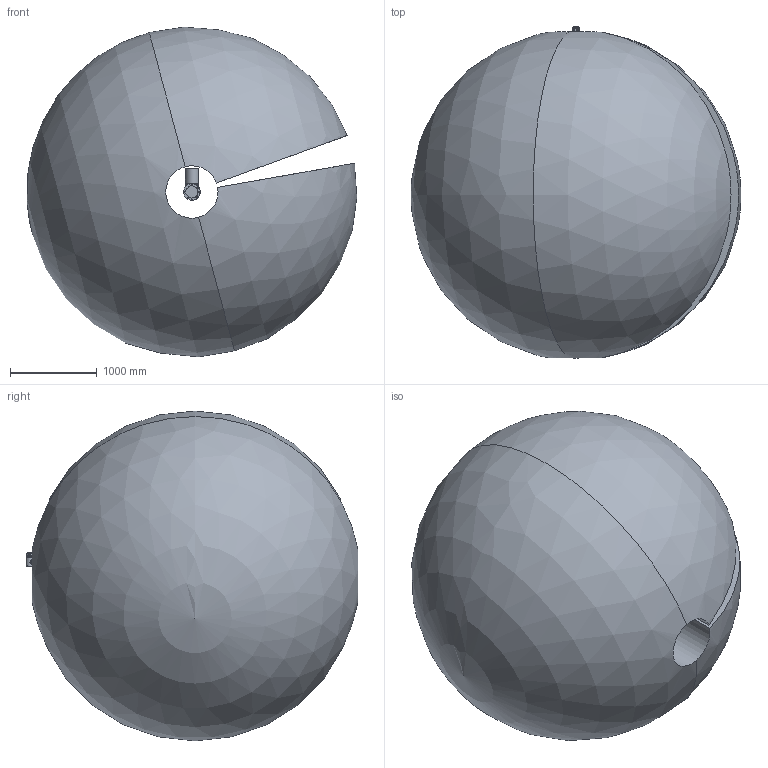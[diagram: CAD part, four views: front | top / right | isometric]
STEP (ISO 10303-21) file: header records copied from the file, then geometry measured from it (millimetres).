
FILE_DESCRIPTION (( 'STEP AP203' ), '1' );
FILE_NAME ('FR5WML-V6.0-俋楷耀倰-婦釐芞.STEP', '2026-06-18T09:48:08', ( 'hello' ), ( '' ), 'SwSTEP 2.0', 'SolidWorks 2018', '' );
FILE_SCHEMA (( 'CONFIG_CONTROL_DESIGN' ));
Length unit declared in the file: millimetre
Products named in the file (16): RD37-FR5L-V6.0-2; RD37-FR5L-V6.0-5; RD37-FR5L-V6.0-4; RD37-FR5L-V6.0-7; FR5WML堍雄毓峓芞; FR5WML-V6.0-俋楷耀倰-婦釐芞; RD37-FR5L-V6.0-1; RD37-FR5L-V6.0-3
Assembly tree (8 placements, depth 2):
  RD37-FR5L-V6.0-5
  RD37-FR5L-V6.0-4
  RD37-FR5L-V6.0-7
  FR5WML堍雄毓峓芞
  FR5WML-V6.0-俋楷耀倰-婦釐芞
    RD37-FR5L-V6.0-1
    RD37-FR5L-V6.0-2
    RD37-FR5L-V6.0-3
    RD37-FR5L-V6.0-4
    RD37-FR5L-V6.0-5  x2
    RD37-FR5L-V6.0-7
    FR5WML堍雄毓峓芞
Bounding box: 3793.5 x 3821.01 x 3796.31 mm (x, y, z)
Volume: 26913772409.1 mm3; surface area: 60862900.7 mm2
Topology: 18 solids, 50 shells, 1786 faces, 4135 edges, 2546 vertices
Faces by surface type: plane 772, cylinder 546, bspline 186, cone 138, sphere 87, torus 57
Entity records: 101663 total; most frequent: CARTESIAN_POINT 64429, ORIENTED_EDGE 7492, DIRECTION 7288, EDGE_CURVE 3746, AXIS2_PLACEMENT_3D 2819, VERTEX_POINT 2332, EDGE_LOOP 1818, LINE 1650
